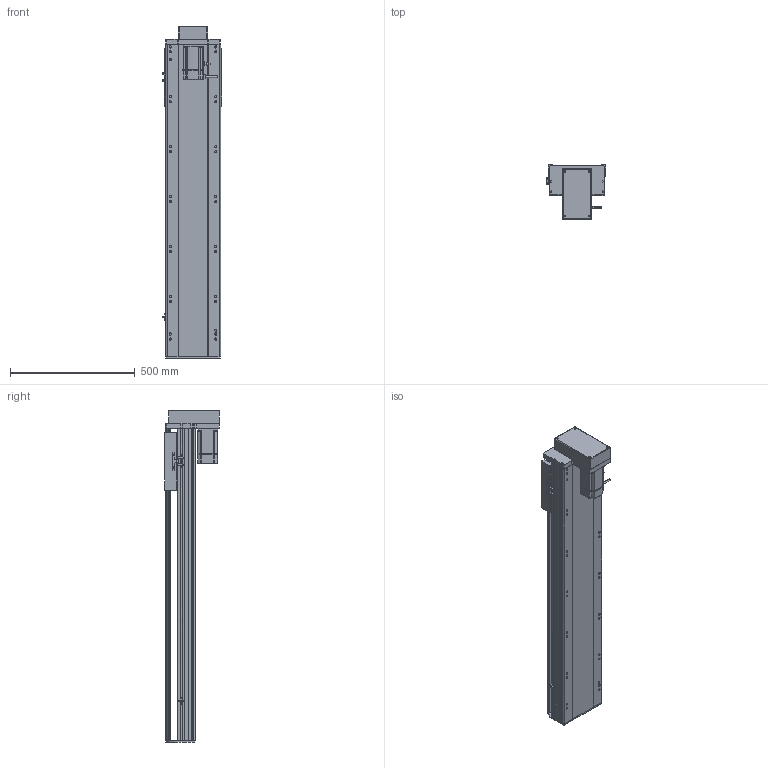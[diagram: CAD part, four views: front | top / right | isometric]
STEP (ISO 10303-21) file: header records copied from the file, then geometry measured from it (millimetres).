
FILE_DESCRIPTION (( 'STEP AP214' ), '1' );
FILE_NAME ('RTH22-XX-950-M-M75-C4.STEP', '2025-10-24T11:10:44', ( 'Microsoft' ), ( 'Microsoft' ), 'SwSTEP 2.0', 'SolidWorks 2018', '' );
FILE_SCHEMA (( 'AUTOMOTIVE_DESIGN' ));
Length unit declared in the file: millimetre
Products named in the file (10): N_750W萇儂^RTH22-XX-XX-M-M75-C4; N_RTH22-M-018裔赽^RTH22-XX-XX-M-M75-C4; N_RTH22-L-011菁釱^RTH22-XX-XX-M-M75-C4; RTH22-XX-950-M-M75-C4; N_RTH22-GY-001耜裔^RTH22-XX-XX-M-M75-C4; N_RTH22-L-004-SFS25賑釱^RTH22-XX-XX-M-M75-C4; N_OMRON EE-SX672 传感器^RTH22-XX-XX-M-M75-C4; N_RTH22-GY-013外置感应片^RTH22-XX-XX-M-M75-C4; N_RTH22-M-007奻裔^RTH22-XX-XX-M-M75-C4; N_RTH22-M-008-P75萇儂啣^RTH22-XX-XX-M-M75-C4
Assembly tree (11 placements, depth 2):
  RTH22-XX-950-M-M75-C4
    N_RTH22-L-011菁釱^RTH22-XX-XX-M-M75-C4
    N_RTH22-GY-001耜裔^RTH22-XX-XX-M-M75-C4
    N_750W萇儂^RTH22-XX-XX-M-M75-C4
    N_RTH22-M-008-P75萇儂啣^RTH22-XX-XX-M-M75-C4
    N_RTH22-M-007奻裔^RTH22-XX-XX-M-M75-C4
    N_RTH22-M-018裔赽^RTH22-XX-XX-M-M75-C4
    N_OMRON EE-SX672 传感器^RTH22-XX-XX-M-M75-C4  x3
    N_RTH22-GY-013外置感应片^RTH22-XX-XX-M-M75-C4
    N_RTH22-L-004-SFS25賑釱^RTH22-XX-XX-M-M75-C4
Bounding box: 238.5 x 218.5 x 1329.7 mm (x, y, z)
Volume: 18254198.9 mm3; surface area: 2008041.5 mm2
Topology: 11 solids, 11 shells, 1623 faces, 4430 edges, 2855 vertices
Faces by surface type: plane 807, cylinder 475, bspline 279, cone 62
Entity records: 40999 total; most frequent: CARTESIAN_POINT 12364, ORIENTED_EDGE 5828, DIRECTION 5508, EDGE_CURVE 2914, VERTEX_POINT 1891, AXIS2_PLACEMENT_3D 1851, LINE 1806, VECTOR 1806
